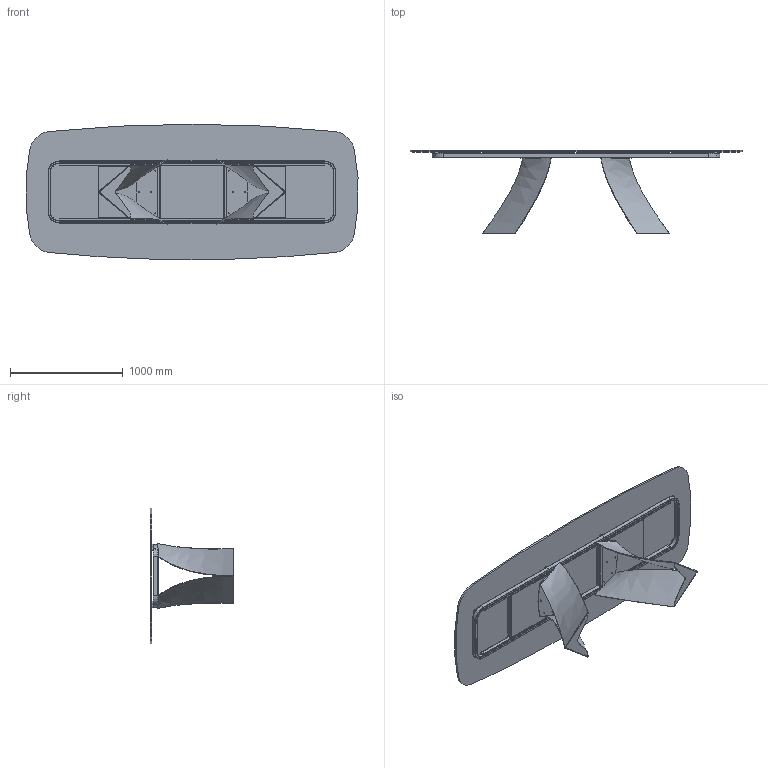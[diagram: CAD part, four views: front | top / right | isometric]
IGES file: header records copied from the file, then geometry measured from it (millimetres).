
Start section: SolidWorks IGES file using analytic representation for surfaces
Global section: file name: Y:\eforma\TECNICO\SOLIDWORKS\E-FORMA\1-TAVOLI\TWIST\02 parts\TW50G.IGS; native system: SolidWorks 2022; preprocessor: SolidWorks 2022; author: eforma.tech; date: 240807.143611; units: millimetre
Bounding box: 2941.59 x 740.37 x 1200 mm (x, y, z)
Volume: 63151788.8 mm3; surface area: 12799153.7 mm2
Topology: 67 solids, 67 shells, 1271 faces, 2953 edges, 1808 vertices
Faces by surface type: revolution 687, plane 518, bspline 66
